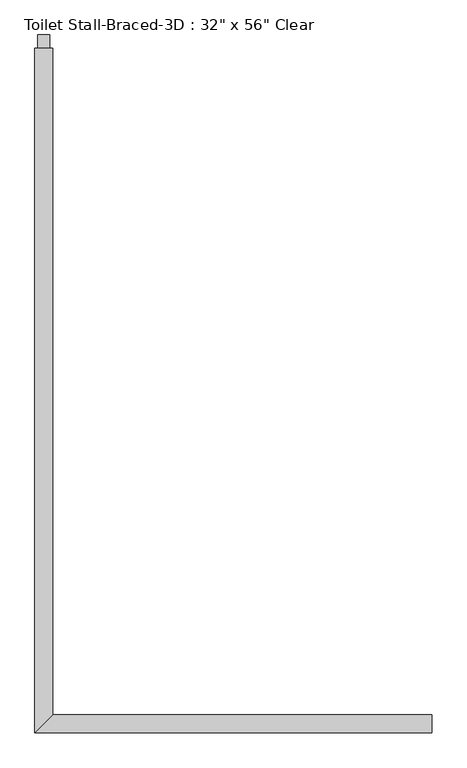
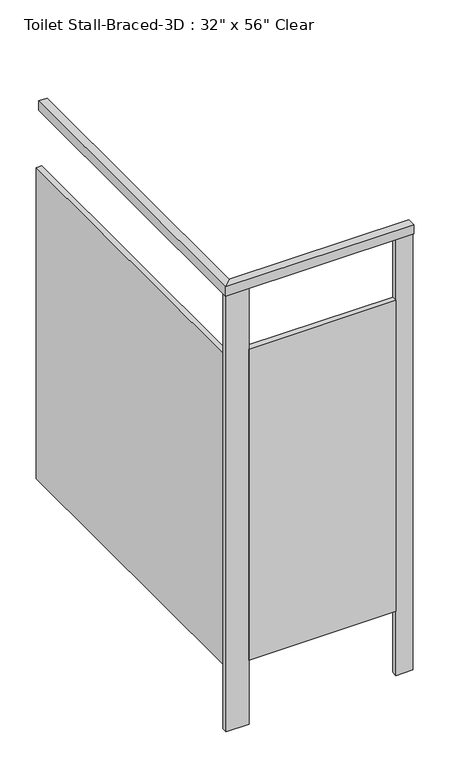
"""IFC4 building model written with IfcOpenShell, lengths in millimetres: proxy geometry."""

import ifcopenshell
import ifcopenshell.guid

model = None  # the IFC model being written
_history = None  # IfcOwnerHistory: only IFC2X3 demands one
_inside = {}  # id of a spatial element -> (the spatial element, [elements in it])
_under = {}  # id of a project, library or spatial element -> (it, [spatial elements below it])
_declared = {}  # id of a project -> (the project, [libraries it declares])
_typed = {}  # id of a type object -> (the type object, [elements of that type])
_made_of = {}  # id of a material, layer set ... -> (it, [elements and type objects made of it])


def new_model(schema):
    """Start an empty IFC model of exactly this schema.

    Asked for "IFC4X3", IfcOpenShell would pick the latest addendum, in which some entities
    have other attributes; the version numbers below select the first issue.
    IFC2X3 requires an IfcOwnerHistory on every rooted entity: one is made here for all.
    """
    global model, _history
    if schema == "IFC4X3":
        model = ifcopenshell.file(schema_version=(4, 3, 0, 0))
    else:
        model = ifcopenshell.file(schema=schema)
    _inside.clear()
    _under.clear()
    _declared.clear()
    _typed.clear()
    _made_of.clear()
    _history = None
    if model.schema == "IFC2X3":
        org = make("IfcOrganization", Name="unknown")
        user = make(
            "IfcPersonAndOrganization",
            ThePerson=make("IfcPerson", FamilyName="unknown"),
            TheOrganization=org,
        )
        app = make(
            "IfcApplication",
            ApplicationDeveloper=org,
            Version="unknown",
            ApplicationFullName="unknown",
            ApplicationIdentifier="unknown",
        )
        _history = make(
            "IfcOwnerHistory",
            OwningUser=user,
            OwningApplication=app,
            ChangeAction="ADDED",
            CreationDate=0,
        )
    return model


def make(cls, **values):
    """One entity of the class cls with the attributes given. An attribute that is None is left unset."""
    return model.create_entity(
        cls, **{name: value for name, value in values.items() if value is not None}
    )


def rooted(cls, **values):
    """An entity with a GlobalId (a new one), such as an element, a storey or a relation."""
    return make(cls, GlobalId=ifcopenshell.guid.new(), OwnerHistory=_history, **values)


def si_unit(unit_type, name, prefix=None):
    """IfcSIUnit, for example si_unit("LENGTHUNIT", "METRE", prefix="MILLI")."""
    return make("IfcSIUnit", UnitType=unit_type, Prefix=prefix, Name=name)


def assignment(units):
    """IfcUnitAssignment: the units of a project."""
    return None if units is None else make("IfcUnitAssignment", Units=units)


def point(xyz):
    """IfcCartesianPoint."""
    return None if xyz is None else make("IfcCartesianPoint", Coordinates=xyz)


def direction(xyz):
    """IfcDirection."""
    return None if xyz is None else make("IfcDirection", DirectionRatios=xyz)


def frame(location, z_axis=None, x_axis=None):
    """IfcAxis2Placement3D, a coordinate frame: its origin and axes. An axis left out is left unset."""
    return make(
        "IfcAxis2Placement3D",
        Location=point(location),
        Axis=direction(z_axis),
        RefDirection=direction(x_axis),
    )


def origin():
    """The frame at (0, 0, 0) with its axes left unset."""
    return frame((0.0, 0.0, 0.0))


def origin_with_axes():
    """The frame at (0, 0, 0) with the z axis (0, 0, 1) and the x axis (1, 0, 0) written out."""
    return frame((0.0, 0.0, 0.0), z_axis=(0.0, 0.0, 1.0), x_axis=(1.0, 0.0, 0.0))


def place(relative_to, where):
    """IfcLocalPlacement: puts the frame where relative to a parent placement (None: the world)."""
    return make(
        "IfcLocalPlacement", PlacementRelTo=relative_to, RelativePlacement=where
    )


def context(
    kind, dimensions, precision=None, world=None, true_north=None, identifier=None
):
    """IfcGeometricRepresentationContext, for example the 3D "Model" context."""
    return make(
        "IfcGeometricRepresentationContext",
        ContextIdentifier=identifier,
        ContextType=kind,
        CoordinateSpaceDimension=dimensions,
        Precision=precision,
        WorldCoordinateSystem=world,
        TrueNorth=true_north,
    )


def project(units=None, contexts=None):
    """IfcProject with its units and contexts."""
    return rooted(
        "IfcProject",
        Name="project",
        RepresentationContexts=contexts,
        UnitsInContext=assignment(units),
    )


def spatial(cls, under=None, at=None, **own):
    """A site, building, storey or space (cls), placed at a placement, below another one or the project."""
    s = rooted(cls, ObjectPlacement=at, **own)
    if under is not None:
        _under.setdefault(under.id(), (under, []))[1].append(s)
    return s


def polyline(points):
    """IfcPolyline through the points."""
    return make("IfcPolyline", Points=[point(p) for p in points])


def outline(outer, holes=None, kind="AREA"):
    """IfcArbitraryClosedProfileDef: a profile drawn as a closed curve; with holes, ...WithVoids."""
    if holes is None:
        return make("IfcArbitraryClosedProfileDef", ProfileType=kind, OuterCurve=outer)
    return make(
        "IfcArbitraryProfileDefWithVoids",
        ProfileType=kind,
        OuterCurve=outer,
        InnerCurves=holes,
    )


def extrude(swept, where, along, depth):
    """IfcExtrudedAreaSolid: the profile swept, set in the frame where, extruded along a direction by depth."""
    return make(
        "IfcExtrudedAreaSolid",
        SweptArea=swept,
        Position=where,
        ExtrudedDirection=direction(along),
        Depth=depth,
    )


def faces_of(points, faces, orient=None, outer=None):
    """IfcFace entities. A face is a list of loops; a loop is a list of indices into points, from 0.

    orient and outer hold one flag for each loop. By default every Orientation is true, the
    first loop of a face is its IfcFaceOuterBound and the others are IfcFaceBound.
    """
    made = []
    for i, loops in enumerate(faces):
        bounds = []
        for j, loop in enumerate(loops):
            is_outer = j == 0 if outer is None else outer[i][j]
            bounds.append(
                make(
                    "IfcFaceOuterBound" if is_outer else "IfcFaceBound",
                    Bound=make("IfcPolyLoop", Polygon=[points[k] for k in loop]),
                    Orientation=True if orient is None else orient[i][j],
                )
            )
        made.append(make("IfcFace", Bounds=bounds))
    return made


def faceted_brep(points, faces, orient=None, outer=None, voids=None):
    """IfcFacetedBrep: a solid bounded by flat faces; with voids (closed shells), ...WithVoids."""
    shared = [point(p) for p in points]
    hull = make("IfcClosedShell", CfsFaces=faces_of(shared, faces, orient, outer))
    if voids is None:
        return make("IfcFacetedBrep", Outer=hull)
    return make(
        "IfcFacetedBrepWithVoids",
        Outer=hull,
        Voids=[
            make(cls, CfsFaces=faces_of(shared, fs, o, b)) for cls, fs, o, b in voids
        ],
    )


def shape(context_of_items, identifier, shape_type, items):
    """IfcShapeRepresentation: the items that make up one representation, for example the "Body"."""
    return make(
        "IfcShapeRepresentation",
        ContextOfItems=context_of_items,
        RepresentationIdentifier=identifier,
        RepresentationType=shape_type,
        Items=items,
    )


def source(mapping_origin, context_of_items, identifier, shape_type, items):
    """IfcRepresentationMap: a shape defined once, which mapped items show again and again."""
    return make(
        "IfcRepresentationMap",
        MappingOrigin=mapping_origin,
        MappedRepresentation=shape(context_of_items, identifier, shape_type, items),
    )


def transform(
    local_origin,
    x_axis=None,
    y_axis=None,
    z_axis=None,
    scale=None,
    scale2=None,
    scale3=None,
    uniform=True,
):
    """IfcCartesianTransformationOperator3D, or its non-uniform kind. x_axis, y_axis, z_axis: its Axis1, 2, 3."""
    if uniform:
        return make(
            "IfcCartesianTransformationOperator3D",
            Axis1=direction(x_axis),
            Axis2=direction(y_axis),
            LocalOrigin=point(local_origin),
            Scale=scale,
            Axis3=direction(z_axis),
        )
    return make(
        "IfcCartesianTransformationOperator3DnonUniform",
        Axis1=direction(x_axis),
        Axis2=direction(y_axis),
        LocalOrigin=point(local_origin),
        Scale=scale,
        Axis3=direction(z_axis),
        Scale2=scale2,
        Scale3=scale3,
    )


def mapped(mapping_source, mapping_target):
    """IfcMappedItem: shows the shape of a source again, moved by a transform."""
    return make(
        "IfcMappedItem", MappingSource=mapping_source, MappingTarget=mapping_target
    )


def made_of(thing, what):
    """Note that an element or type object is made of a material, layer set ...; save() writes the relation."""
    if what is not None:
        _made_of.setdefault(what.id(), (what, []))[1].append(thing)
    return thing


def element(
    cls,
    number,
    at=None,
    inside=None,
    cuts=None,
    type_object=None,
    material=None,
    context=None,
    identifier="Body",
    shape_type=None,
    held_by="IfcProductDefinitionShape",
    body=None,
    shapes=None,
    **own,
):
    """One element of the class cls, such as IfcWall. Its Tag is "e" and its number.

    at: its placement. inside: the storey or other place that contains it. cuts: it is an
    opening in that element (IfcRelVoidsElement). A single representation is given by context,
    identifier, shape_type and body (its items); several are given by shapes. held_by: the class
    of the entity that holds the representations. save() writes the other relations.
    """
    e = rooted(cls, Tag="e%d" % number, ObjectPlacement=at, **own)
    if body is not None:
        shapes = [shape(context, identifier, shape_type, body)]
    if shapes is not None:
        e.Representation = make(held_by, Representations=shapes)
    if inside is not None:
        _inside.setdefault(inside.id(), (inside, []))[1].append(e)
    if cuts is not None:
        rooted(
            "IfcRelVoidsElement", RelatingBuildingElement=cuts, RelatedOpeningElement=e
        )
    if type_object is not None:
        _typed.setdefault(type_object.id(), (type_object, []))[1].append(e)
    return made_of(e, material)


def aggregate(whole, parts):
    """IfcRelAggregates: a whole, such as a stair, and the parts it consists of."""
    return rooted("IfcRelAggregates", RelatingObject=whole, RelatedObjects=parts)


def save(model, path):
    """Write the relations noted so far, then the file.

    IfcRelAggregates (storeys below a building ...), IfcRelContainedInSpatialStructure (elements
    in a storey), IfcRelDefinesByType, IfcRelAssociatesMaterial and IfcRelDeclares: one each for
    every whole, place, type object, material and project.
    """
    for whole, parts in _under.values():
        aggregate(whole, parts)
    for where, things in _inside.values():
        rooted(
            "IfcRelContainedInSpatialStructure",
            RelatedElements=things,
            RelatingStructure=where,
        )
    for kind, things in _typed.values():
        rooted("IfcRelDefinesByType", RelatedObjects=things, RelatingType=kind)
    for what, things in _made_of.values():
        rooted("IfcRelAssociatesMaterial", RelatedObjects=things, RelatingMaterial=what)
    for by, libraries in _declared.values():
        rooted("IfcRelDeclares", RelatingContext=by, RelatedDefinitions=libraries)
    model.write(path)


def proxy_a965dae9(model_context):
    return source(origin(), model_context, "Body", "SolidModel", [
        faceted_brep([(-26.8968462, -92.075, 2108.2), (-26.8968462, -92.075, 2070.1), (-33.2468462, -92.075, 2070.1), (-33.2468462, -92.075, 2114.55), (4.8531538, -92.075, 2114.55), (4.8531538, -92.075, 2070.1), (-1.4968462, -92.075, 2070.1), (-1.4968462, -92.075, 2108.2), (-1.4968462, -1514.475, 2108.2), (-26.8968462, -1539.875, 2108.2), (-1.4968462, -1514.475, 2070.1), (4.8531538, -1508.125, 2070.1), (4.8531538, -1508.125, 2114.55), (-33.2468462, -1546.225, 2114.55), (-33.2468462, -1546.225, 2070.1), (-26.8968462, -1539.875, 2070.1), (811.3031538, -1539.875, 2108.2), (811.3031538, -1514.475, 2108.2), (811.3031538, -1514.475, 2070.1), (811.3031538, -1508.125, 2070.1), (811.3031538, -1508.125, 2114.55), (811.3031538, -1546.225, 2114.55), (811.3031538, -1546.225, 2070.1), (811.3031538, -1539.875, 2070.1)], [[[0, 1, 2, 3, 4, 5, 6, 7]], [[7, 8, 9, 0]], [[6, 10, 8, 7]], [[5, 11, 10, 6]], [[4, 12, 11, 5]], [[3, 13, 12, 4]], [[2, 14, 13, 3]], [[1, 15, 14, 2]], [[0, 9, 15, 1]], [[16, 17, 18, 19, 20, 21, 22, 23]], [[8, 17, 16, 9]], [[10, 18, 17, 8]], [[11, 19, 18, 10]], [[12, 20, 19, 11]], [[13, 21, 20, 12]], [[14, 22, 21, 13]], [[15, 23, 22, 14]], [[9, 16, 23, 15]]]),
        extrude(outline(polyline([(735.1031538, -1539.875), (74.7031538, -1539.875), (74.7031538, -1514.475), (735.1031538, -1514.475), (735.1031538, -1539.875)])), frame((0.0, 0.0, 304.8), z_axis=(0.0, 0.0, 1.0), x_axis=(1.0, 0.0, 0.0)), (0.0, 0.0, 1.0), 1473.2),
        extrude(outline(polyline([(74.7031538, -1539.875), (-26.8968462, -1539.875), (-26.8968462, -1514.475), (74.7031538, -1514.475), (74.7031538, -1539.875)])), origin_with_axes(), (0.0, 0.0, 1.0), 2108.2),
        extrude(outline(polyline([(811.3031538, -1539.875), (735.1031538, -1539.875), (735.1031538, -1514.475), (811.3031538, -1514.475), (811.3031538, -1539.875)])), origin_with_axes(), (0.0, 0.0, 1.0), 2108.2),
        extrude(outline(polyline([(-26.8968462, -1514.475), (-26.8968462, -63.5), (-1.4968462, -63.5), (-1.4968462, -1514.475), (-26.8968462, -1514.475)])), frame((0.0, 0.0, 304.8), z_axis=(0.0, 0.0, 1.0), x_axis=(1.0, 0.0, 0.0)), (0.0, 0.0, 1.0), 1473.2),
    ])


if __name__ == "__main__":
    model = new_model("IFC4")
    model_context = context("Model", 3, world=origin())
    ifc_project = project(units=[si_unit("LENGTHUNIT", "METRE", prefix="MILLI")], contexts=[model_context])
    site = spatial("IfcSite", under=ifc_project)
    building = spatial("IfcBuilding", under=site)
    placement = place(None, origin())
    proxy_shape = proxy_a965dae9(model_context)
    element("IfcBuildingElementProxy", 1, Name="Toilet Stall-Braced-3D : 32\" x 56\" Clear", ObjectType="Toilet Stall-Braced-3D : 32\" x 56\" Clear", at=placement, inside=building, context=model_context, shape_type="MappedRepresentation", body=[
        mapped(proxy_shape, transform((0.0, 0.0, 0.0), x_axis=(1.0, 0.0, 0.0), y_axis=(0.0, 1.0, 0.0), z_axis=(0.0, 0.0, 1.0))),
    ])
    save(model, "model.ifc")
